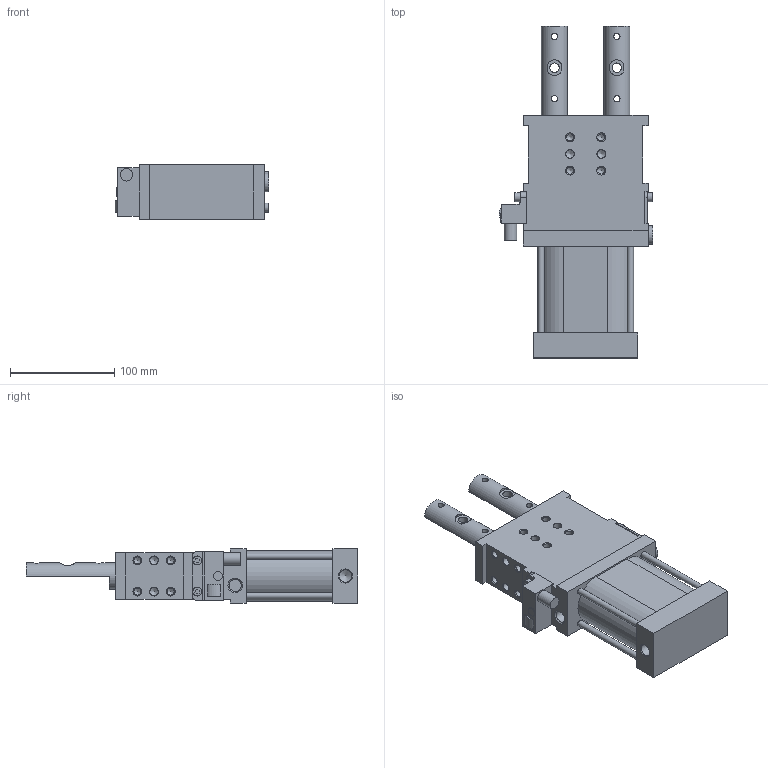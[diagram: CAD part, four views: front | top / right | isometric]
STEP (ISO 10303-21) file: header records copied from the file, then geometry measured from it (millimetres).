
FILE_DESCRIPTION((''),'2;1');
FILE_NAME('S:\Tom\INVENTOR FILES\AUTOMOTIVE\VEP\LOCATORS\DCPD Step Files\DCPD\07d_DCPD63\XLP63-2-3-ES1-IR-40.stp','2014-09-03T08:32:39',('carl'),(''),'Autodesk Inventor 2013','Autodesk Inventor 2013','');
FILE_SCHEMA(('AUTOMOTIVE_DESIGN { 1 0 10303 214 1 1 1 1 }'));
Length unit declared in the file: millimetre
Products named in the file (8): Assembly9; Part75; Part77; Part79; Part81; Part83; Part85; Part87
Assembly tree (7 placements, depth 2):
  Assembly9
    Part75
    Part77
    Part79
    Part81
    Part83
    Part85
    Part87
Bounding box: 147.6 x 319 x 52 mm (x, y, z)
Volume: 1154421.7 mm3; surface area: 165439 mm2
Topology: 7 solids, 7 shells, 245 faces, 566 edges, 360 vertices
Faces by surface type: plane 116, cylinder 68, cone 61
Full cylindrical faces by diameter (mm): 4 x4, 6 x8, 6.8 x16, 8 x8, 8.5 x5, 9 x2, 11.6 x1, 11.8 x2, 12 x1, 13 x1, 16 x4, 18 x1, 25 x4
Entity records: 6518 total; most frequent: CARTESIAN_POINT 1198, DIRECTION 1080, ORIENTED_EDGE 830, AXIS2_PLACEMENT_3D 421, EDGE_CURVE 415, EDGE_LOOP 404, VERTEX_POINT 327, FACE_OUTER_BOUND 245
